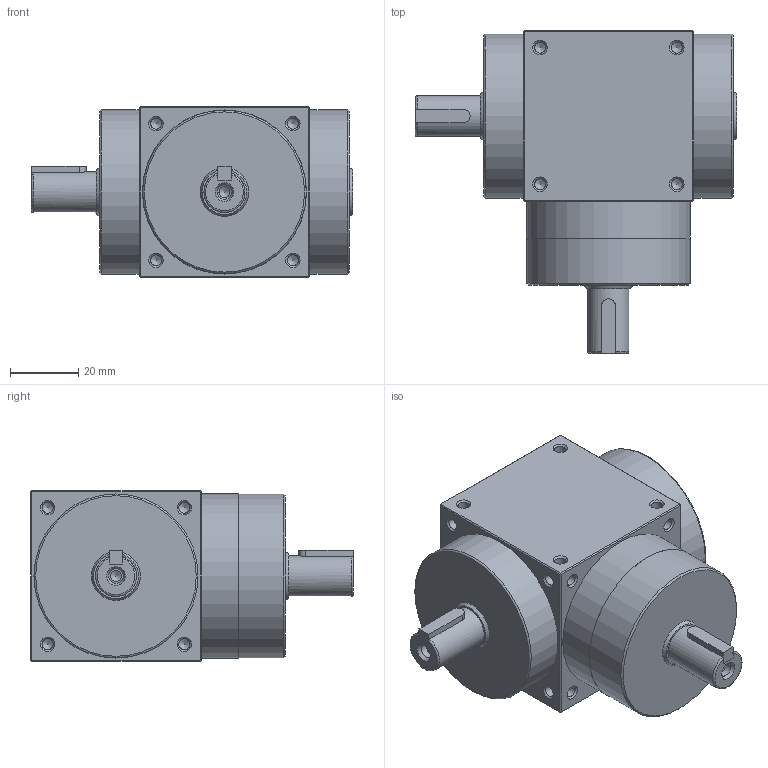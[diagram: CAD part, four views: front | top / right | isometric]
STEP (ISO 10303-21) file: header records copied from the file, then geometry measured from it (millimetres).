
FILE_DESCRIPTION((''),'2;1');
FILE_NAME('D:\유성\SBT 베벨기어박스\최종도면모음\3D\SBT050\SBT050LS001K.stp','2014-05-19T11:09:59',(''),(''),'Autodesk Inventor 2013','Autodesk Inventor 2013','');
FILE_SCHEMA(('AUTOMOTIVE_DESIGN { 1 0 10303 214 1 1 1 1 }'));
Length unit declared in the file: millimetre
Products named in the file (1): SBT050LS001K_Shrinkwrap_1
Bounding box: 94 x 94.5 x 50 mm (x, y, z)
Volume: 213826.9 mm3; surface area: 25428.2 mm2
Topology: 1 solids, 1 shells, 171 faces, 483 edges, 292 vertices
Faces by surface type: cylinder 62, cone 61, plane 44, torus 4
Full cylindrical faces by diameter (mm): 3.242 x50, 4 x2, 4.3 x2, 12 x2, 47.9 x1, 48 x3
Entity records: 4398 total; most frequent: DIRECTION 834, CARTESIAN_POINT 754, ORIENTED_EDGE 578, AXIS2_PLACEMENT_3D 381, EDGE_LOOP 304, EDGE_CURVE 289, VERTEX_POINT 221, FACE_OUTER_BOUND 171
